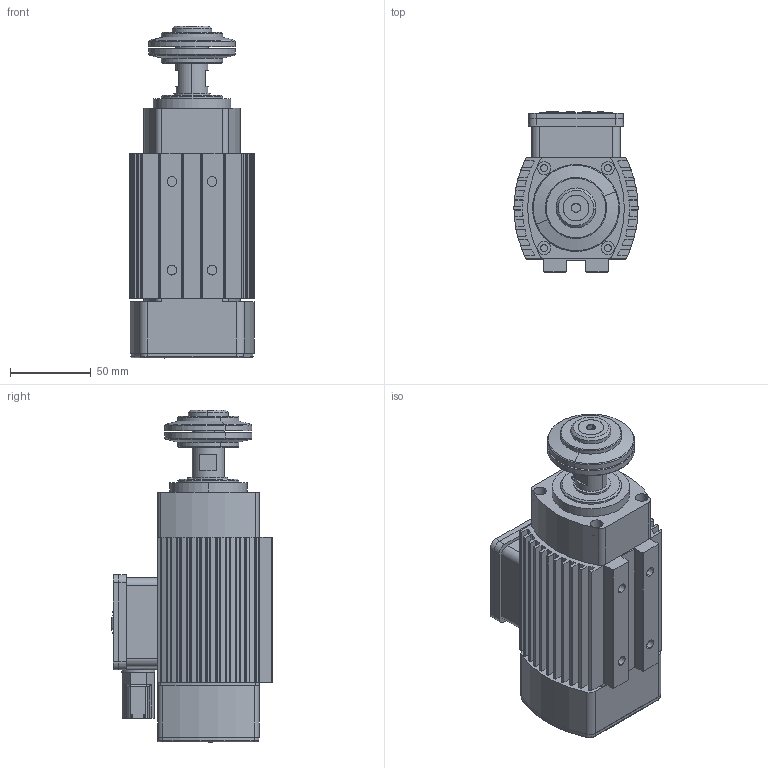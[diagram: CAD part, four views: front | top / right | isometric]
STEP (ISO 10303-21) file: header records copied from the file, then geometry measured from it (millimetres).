
FILE_DESCRIPTION (( 'STEP AP203' ), '1' );
FILE_NAME ('ARFM.1Y-S Flansli.STEP', '2022-04-20T11:19:59', ( '' ), ( '' ), 'SwSTEP 2.0', 'SolidWorks 2014', '' );
FILE_SCHEMA (( 'CONFIG_CONTROL_DESIGN' ));
Length unit declared in the file: millimetre
Products named in the file (15): 1Y Testere Flans; Klemens Kutusu; M8x20 inpus havsa; arfm.1y-s gövde; arfm.1y 霵 toz kapak; arfm.1y klemens kutusu kapaðý; arfm.1y Caký Pulu Memeli; arfm.1y hava kapak; ARFM.1Y-S Flansli; arfm.1y arka kapak; arfm.1y rotor mili 16x17; pg 9 týrnaklý; 471-20 Sekman; arfm.1y 霵 kapak; arfm.1y klemens kutusu
Assembly tree (14 placements, depth 3):
  ARFM.1Y-S Flansli
    arfm.1y-s gövde
    arfm.1y arka kapak
    Klemens Kutusu
      arfm.1y klemens kutusu
      arfm.1y klemens kutusu kapaðý
      pg 9 týrnaklý
    arfm.1y hava kapak
    arfm.1y 霵 kapak
    arfm.1y 霵 toz kapak
    arfm.1y rotor mili 16x17
    1Y Testere Flans
    arfm.1y Caký Pulu Memeli
    471-20 Sekman
    M8x20 inpus havsa
Bounding box: 77 x 99.3 x 206 mm (x, y, z)
Volume: 800320.7 mm3; surface area: 143654.4 mm2
Topology: 13 solids, 13 shells, 737 faces, 1948 edges, 1278 vertices
Faces by surface type: cylinder 381, plane 288, cone 39, torus 16, bspline 13
Entity records: 26878 total; most frequent: CARTESIAN_POINT 6657, DIRECTION 3995, ORIENTED_EDGE 3892, EDGE_CURVE 1946, AXIS2_PLACEMENT_3D 1467, VERTEX_POINT 1278, VECTOR 1061, LINE 1061
